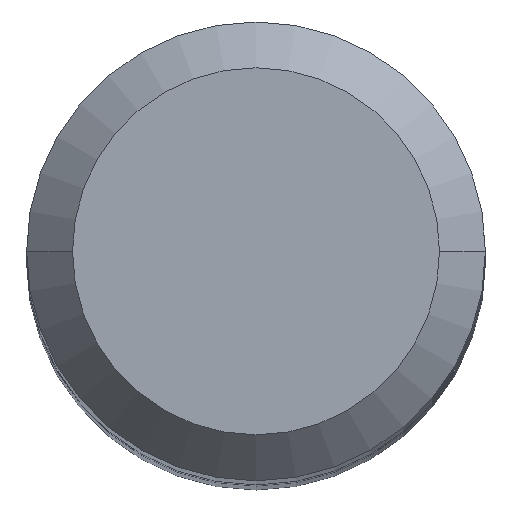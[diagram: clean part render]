
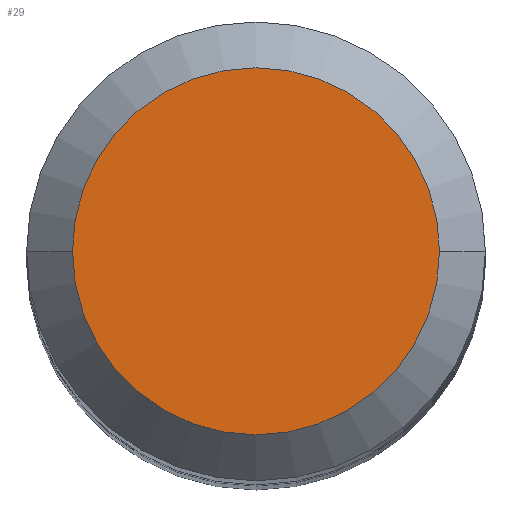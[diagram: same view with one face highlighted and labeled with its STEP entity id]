
A CAD part, top view. The second image highlights one B-rep face of the part: STEP entity #29.
In plain terms, the highlighted planar face has unit normal (0, 0, 1).
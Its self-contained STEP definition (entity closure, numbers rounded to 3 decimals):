
#24 = DIRECTION ( 'NONE',  ( 0., 0., 1. ) ) ;
#29 = ADVANCED_FACE ( 'NONE', ( #277 ), #407, .T. ) ;
#50 = DIRECTION ( 'NONE',  ( -1., 0., 0. ) ) ;
#57 = DIRECTION ( 'NONE',  ( 1., 0., 0. ) ) ;
#104 = ORIENTED_EDGE ( 'NONE', *, *, #179, .F. ) ;
#107 = AXIS2_PLACEMENT_3D ( 'NONE', #541, #24, #57 ) ;
#169 = ORIENTED_EDGE ( 'NONE', *, *, #529, .F. ) ;
#172 = DIRECTION ( 'NONE',  ( 0., 0., -1. ) ) ;
#179 = EDGE_CURVE ( 'NONE', #360, #483, #469, .T. ) ;
#262 = AXIS2_PLACEMENT_3D ( 'NONE', #330, #510, #50 ) ;
#277 = FACE_OUTER_BOUND ( 'NONE', #282, .T. ) ;
#282 = EDGE_LOOP ( 'NONE', ( #104, #169 ) ) ;
#313 = CARTESIAN_POINT ( 'NONE',  ( 3.2, 0., 0. ) ) ;
#330 = CARTESIAN_POINT ( 'NONE',  ( 0., 0., 0. ) ) ;
#346 = DIRECTION ( 'NONE',  ( -1., 0., 0. ) ) ;
#360 = VERTEX_POINT ( 'NONE', #554 ) ;
#373 = AXIS2_PLACEMENT_3D ( 'NONE', #515, #172, #346 ) ;
#407 = PLANE ( 'NONE',  #107 ) ;
#469 = CIRCLE ( 'NONE', #373, 3.2 ) ;
#483 = VERTEX_POINT ( 'NONE', #313 ) ;
#510 = DIRECTION ( 'NONE',  ( 0., 0., -1. ) ) ;
#515 = CARTESIAN_POINT ( 'NONE',  ( 0., 0., 0. ) ) ;
#529 = EDGE_CURVE ( 'NONE', #483, #360, #547, .T. ) ;
#541 = CARTESIAN_POINT ( 'NONE',  ( 0., 3.2, 0. ) ) ;
#547 = CIRCLE ( 'NONE', #262, 3.2 ) ;
#554 = CARTESIAN_POINT ( 'NONE',  ( -3.2, 0., 0. ) ) ;
